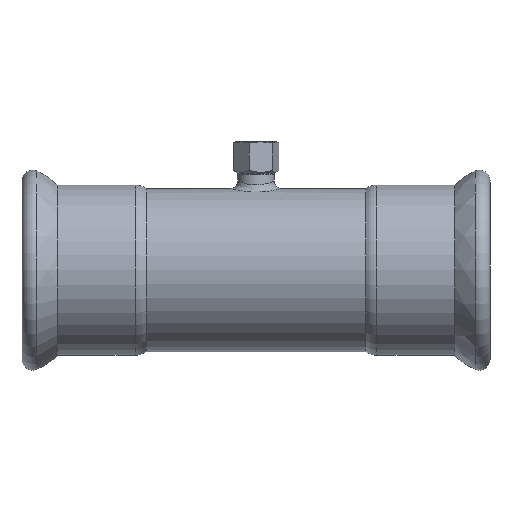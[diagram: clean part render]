
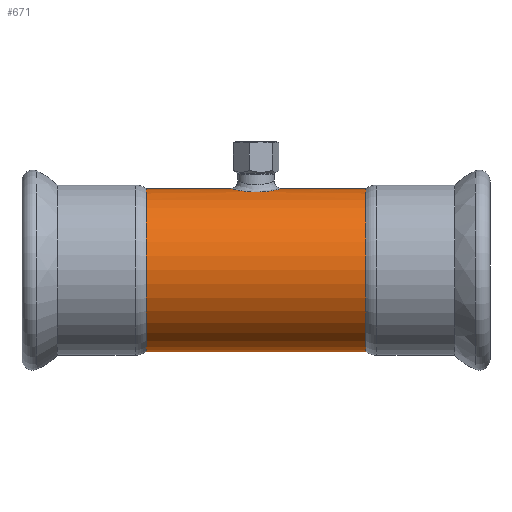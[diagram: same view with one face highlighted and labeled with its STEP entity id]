
A CAD part, front view. The second image highlights one B-rep face of the part: STEP entity #671.
In plain terms, the highlighted cylindrical face has radius 54 mm (diameter 108 mm), a full revolution.
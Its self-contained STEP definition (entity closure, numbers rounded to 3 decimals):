
#16=B_SPLINE_CURVE_WITH_KNOTS($,3,(#1502,#1503,#1504,#1505,#1506,#1507,
#1508,#1509,#1510,#1511,#1512,#1513,#1514,#1515,#1516,#1517,#1518,#1519,
#1520,#1521,#1522),.UNSPECIFIED.,.T.,.F.,(4,3,1,1,1,1,1,1,1,1,1,1,1,1,1,
1,4),(-7.259,-7.259,-6.74,-6.222,
-5.703,-5.185,-4.666,-4.148,
-3.456,-3.111,-2.765,-2.074,
-1.555,-1.037,-0.518,-0.259,
0.),.UNSPECIFIED.);
#105=FACE_BOUND($,#241,.T.);
#106=FACE_BOUND($,#242,.T.);
#134=CYLINDRICAL_SURFACE($,#756,54.);
#173=FACE_OUTER_BOUND($,#240,.T.);
#240=EDGE_LOOP($,(#595));
#241=EDGE_LOOP($,(#596));
#242=EDGE_LOOP($,(#597));
#332=CIRCLE($,#757,54.);
#333=CIRCLE($,#758,54.);
#391=VERTEX_POINT($,#1478);
#393=VERTEX_POINT($,#1525);
#394=VERTEX_POINT($,#1527);
#469=EDGE_CURVE($,#391,#391,#16,.T.);
#470=EDGE_CURVE($,#393,#393,#332,.T.);
#471=EDGE_CURVE($,#394,#394,#333,.T.);
#595=ORIENTED_EDGE($,*,*,#470,.T.);
#596=ORIENTED_EDGE($,*,*,#471,.F.);
#597=ORIENTED_EDGE($,*,*,#469,.F.);
#671=ADVANCED_FACE($,(#173,#105,#106),#134,.T.);
#756=AXIS2_PLACEMENT_3D($,#1524,#922,#923);
#757=AXIS2_PLACEMENT_3D($,#1526,#924,#925);
#758=AXIS2_PLACEMENT_3D($,#1528,#926,#927);
#922=DIRECTION('center_axis',(1.,0.,0.));
#923=DIRECTION('ref_axis',(0.,1.,0.));
#924=DIRECTION('center_axis',(1.,0.,0.));
#925=DIRECTION('ref_axis',(0.,1.,0.));
#926=DIRECTION('center_axis',(1.,0.,0.));
#927=DIRECTION('ref_axis',(0.,1.,0.));
#1478=CARTESIAN_POINT('',(-155.,15.559,51.71));
#1502=CARTESIAN_POINT('Ctrl Pts',(-155.,15.561,51.709));
#1503=CARTESIAN_POINT('Ctrl Pts',(-155.,15.561,51.709));
#1504=CARTESIAN_POINT('Ctrl Pts',(-155.001,15.561,51.709));
#1505=CARTESIAN_POINT('Ctrl Pts',(-155.001,15.561,51.709));
#1506=CARTESIAN_POINT('Ctrl Pts',(-157.543,15.561,51.709));
#1507=CARTESIAN_POINT('Ctrl Pts',(-162.638,14.489,52.049));
#1508=CARTESIAN_POINT('Ctrl Pts',(-168.714,10.058,53.156));
#1509=CARTESIAN_POINT('Ctrl Pts',(-172.134,3.633,54.034));
#1510=CARTESIAN_POINT('Ctrl Pts',(-172.149,-3.593,54.033));
#1511=CARTESIAN_POINT('Ctrl Pts',(-168.73,-10.029,53.165));
#1512=CARTESIAN_POINT('Ctrl Pts',(-162.008,-14.978,51.919));
#1513=CARTESIAN_POINT('Ctrl Pts',(-154.074,-16.101,51.539));
#1514=CARTESIAN_POINT('Ctrl Pts',(-147.496,-14.216,52.111));
#1515=CARTESIAN_POINT('Ctrl Pts',(-141.858,-10.708,53.003));
#1516=CARTESIAN_POINT('Ctrl Pts',(-137.856,-4.426,54.04));
#1517=CARTESIAN_POINT('Ctrl Pts',(-137.864,3.607,54.033));
#1518=CARTESIAN_POINT('Ctrl Pts',(-141.266,10.036,53.159));
#1519=CARTESIAN_POINT('Ctrl Pts',(-146.337,13.741,52.237));
#1520=CARTESIAN_POINT('Ctrl Pts',(-151.156,15.292,51.791));
#1521=CARTESIAN_POINT('Ctrl Pts',(-153.729,15.56,51.709));
#1522=CARTESIAN_POINT('Ctrl Pts',(-155.,15.561,51.709));
#1524=CARTESIAN_POINT('Origin',(-218.9,0.,0.));
#1525=CARTESIAN_POINT('',(-227.8,54.,0.));
#1526=CARTESIAN_POINT('Origin',(-227.8,0.,0.));
#1527=CARTESIAN_POINT('',(-82.2,54.,0.));
#1528=CARTESIAN_POINT('Origin',(-82.2,0.,0.));
